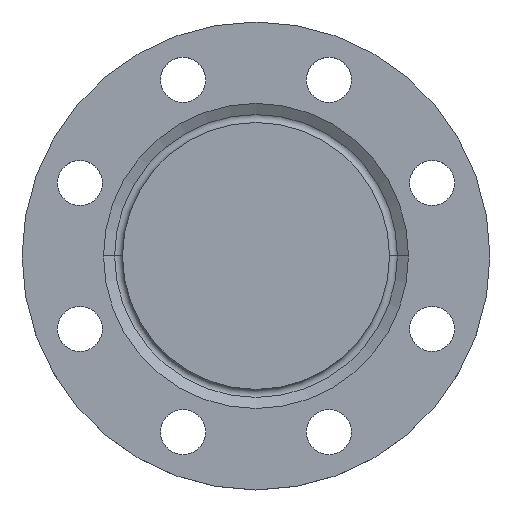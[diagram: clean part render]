
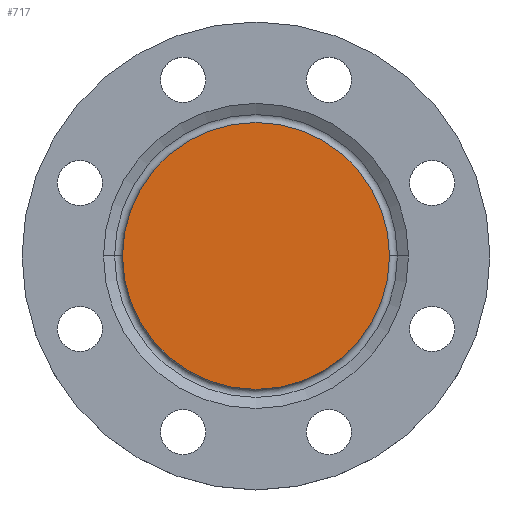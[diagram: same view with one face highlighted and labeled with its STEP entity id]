
A CAD part, top view. The second image highlights one B-rep face of the part: STEP entity #717.
In plain terms, the highlighted planar face has unit normal (0, 0, 1).
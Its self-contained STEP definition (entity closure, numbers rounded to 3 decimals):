
#20 = EDGE_CURVE ( 'NONE', #762, #1032, #776, .T. ) ;
#37 = FACE_OUTER_BOUND ( 'NONE', #489, .T. ) ;
#277 = AXIS2_PLACEMENT_3D ( 'NONE', #786, #1129, #334 ) ;
#285 = DIRECTION ( 'NONE',  ( 0., 0., -1. ) ) ;
#288 = DIRECTION ( 'NONE',  ( -1., 0., 0. ) ) ;
#304 = DIRECTION ( 'NONE',  ( 1., 0., 0. ) ) ;
#334 = DIRECTION ( 'NONE',  ( -1., 0., 0. ) ) ;
#339 = AXIS2_PLACEMENT_3D ( 'NONE', #378, #285, #288 ) ;
#359 = CARTESIAN_POINT ( 'NONE',  ( 77., 0., 0. ) ) ;
#378 = CARTESIAN_POINT ( 'NONE',  ( 0., 0., 0. ) ) ;
#387 = PLANE ( 'NONE',  #1002 ) ;
#489 = EDGE_LOOP ( 'NONE', ( #738, #495 ) ) ;
#495 = ORIENTED_EDGE ( 'NONE', *, *, #514, .F. ) ;
#514 = EDGE_CURVE ( 'NONE', #1032, #762, #603, .T. ) ;
#603 = CIRCLE ( 'NONE', #277, 77. ) ;
#674 = CARTESIAN_POINT ( 'NONE',  ( -77., 0., 0. ) ) ;
#717 = ADVANCED_FACE ( 'NONE', ( #37 ), #387, .T. ) ;
#738 = ORIENTED_EDGE ( 'NONE', *, *, #20, .F. ) ;
#752 = CARTESIAN_POINT ( 'NONE',  ( 0., 0., 0. ) ) ;
#762 = VERTEX_POINT ( 'NONE', #674 ) ;
#776 = CIRCLE ( 'NONE', #339, 77. ) ;
#786 = CARTESIAN_POINT ( 'NONE',  ( 0., 0., 0. ) ) ;
#1002 = AXIS2_PLACEMENT_3D ( 'NONE', #752, #1098, #304 ) ;
#1032 = VERTEX_POINT ( 'NONE', #359 ) ;
#1098 = DIRECTION ( 'NONE',  ( 0., 0., 1. ) ) ;
#1129 = DIRECTION ( 'NONE',  ( 0., 0., -1. ) ) ;
